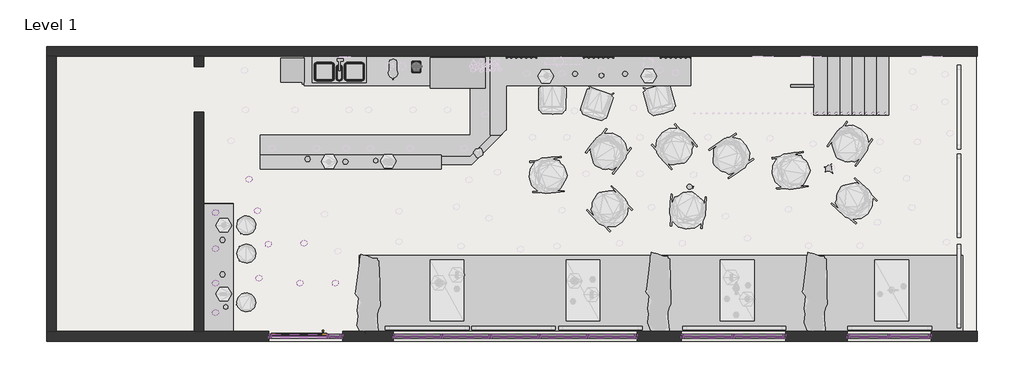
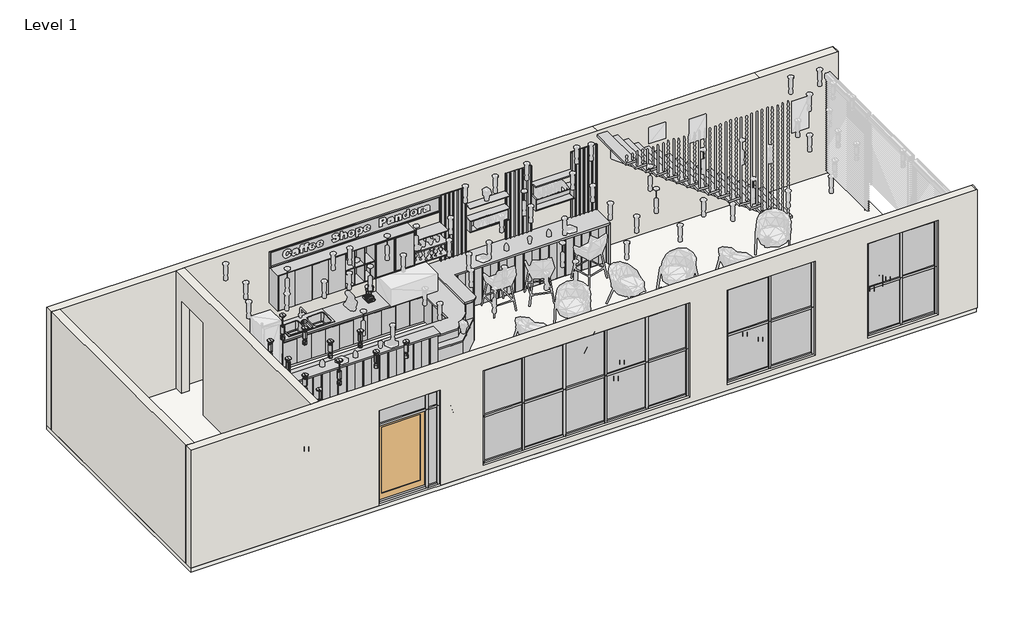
# One storey, part 1 of 12: 63 members, 21 plates, 11 light fixtures, 4 walls, 1 door, 1 flow terminal, 1 furniture element, 1 proxy, 2 other elements.
"""IFC4 building model written with IfcOpenShell, lengths in millimetres."""

from ifc_helpers import new_model, si_unit, frame, origin, origin_with_axes, place, context, project, spatial, polyline, outline, extrude, faceted_brep, transform, mapped, element, save
from components import specialty_equipment_4209ac2b, sgl_glass_1_sgl_glass_1_c4b590e0, sink_kitchen_triple_nz_1100_x_535mm_e0c28fc6, sink_kitchen_triple_nz_1100_x_535mm_59c7ceb9, furniture_1_furniture_1_1562d1c4, furniture_1_furniture_1_585118fb, light_fixture_a07fdb93, light_fixture_9dd68e13, member_248978aa, member_1a6eca39, member_66f684dc, member_066fb714, member_e0c796fc, member_adb27334, member_c876bcbd, member_9a189947, member_9f81c8f5, member_7ecdc260, member_ab99e772, member_f441077e, member_68cf1f2c, member_23567610, member_c260e5f1, member_744693ed, member_a46e3cf1, member_759d1258, system_panel_glazed_d6e8c8ab, system_panel_glazed_ee1e8c74, system_panel_glazed_7e8a296b, system_panel_glazed_d3e62436, system_panel_glazed_fb523d6f, system_panel_glazed_4594a90e, system_panel_glazed_4b920c80, stair_flight_50mm_tread_13mm_riser_529925ad

model = new_model("IFC4")

# Units and contexts
model_context = context("Model", 3, world=origin())
ifc_project = project(units=[si_unit("LENGTHUNIT", "METRE", prefix="MILLI")], contexts=[model_context])

# Site, building, storey
site = spatial("IfcSite", under=ifc_project)
building = spatial("IfcBuilding", under=site)
storey = spatial("IfcBuildingStorey", under=building, Name="Level 1", Elevation=0.0)

# Proxy
placement = place(None, origin())
specialty_equipment_shape = specialty_equipment_4209ac2b(model_context)
element("IfcBuildingElementProxy", 1, Name="Blender_167 : Blender_167", ObjectType="Blender_167 : Blender_167", at=placement, inside=storey, context=model_context, shape_type="MappedRepresentation", body=[
    mapped(specialty_equipment_shape, transform((3133.7993478, 2199.760891, 800.0), x_axis=(0.0, -1.0, 0.0), y_axis=(1.0, 0.0, 0.0), z_axis=(0.0, 0.0, 1.0))),
])

# Door
sgl_glass_1_sgl_glass_1_shape = sgl_glass_1_sgl_glass_1_c4b590e0(model_context)
element("IfcDoor", 2, ObjectType="Sgl Glass (1) : Sgl Glass (1)", at=placement, inside=storey, context=model_context, shape_type="MappedRepresentation", body=[
    mapped(sgl_glass_1_sgl_glass_1_shape, transform((843.1769045, -3400.239109, 50.0), x_axis=(-1.0, 0.0, 0.0), y_axis=(0.0, -1.0, 0.0), z_axis=(0.0, 0.0, 1.0))),
])

# Flow terminal
sink_kitchen_triple_nz_1100_x_535mm_shape = sink_kitchen_triple_nz_1100_x_535mm_e0c28fc6(model_context)
sink_kitchen_triple_nz_1100_x_535mm_2_shape = sink_kitchen_triple_nz_1100_x_535mm_59c7ceb9(model_context)
element("IfcFlowTerminal", 3, ObjectType="Sink Kitchen-Triple (NZ) : 1100 x 535mm", at=placement, inside=storey, context=model_context, shape_type="MappedRepresentation", body=[
    mapped(sink_kitchen_triple_nz_1100_x_535mm_shape, transform((1646.2101072, 2024.2154898, -100.0), x_axis=(1.0, 0.0, 0.0), y_axis=(0.0, 1.0, 0.0), z_axis=(0.0, 0.0, 1.0))),
    mapped(sink_kitchen_triple_nz_1100_x_535mm_2_shape, transform((1646.2101072, 2024.2154898, -100.0), x_axis=(1.0, 0.0, 0.0), y_axis=(0.0, 1.0, 0.0), z_axis=(0.0, 0.0, 1.0))),
])

# Furniture
furniture_1_furniture_1_shape = furniture_1_furniture_1_1562d1c4(model_context)
furniture_1_furniture_1_2_shape = furniture_1_furniture_1_585118fb(model_context)
element("IfcFurniture", 4, ObjectType="Furniture 1 : Furniture 1", at=placement, inside=storey, context=model_context, shape_type="MappedRepresentation", body=[
    mapped(furniture_1_furniture_1_shape, transform((0.0, 0.0, 0.0), x_axis=(1.0, 0.0, 0.0), y_axis=(0.0, 1.0, 0.0), z_axis=(0.0, 0.0, 1.0))),
    mapped(furniture_1_furniture_1_2_shape, transform((0.0, 0.0, 0.0), x_axis=(1.0, 0.0, 0.0), y_axis=(0.0, 1.0, 0.0), z_axis=(0.0, 0.0, 1.0))),
])

# Light fixtures
light_fixture_shape = light_fixture_a07fdb93(model_context)
element("IfcLightFixture", 5, ObjectType="Lighting_Pendants_Intra-Lighting_Zoe-Z3 : 600lm 11W 830 FO", at=placement, inside=storey, context=model_context, shape_type="MappedRepresentation", body=[
    mapped(light_fixture_shape, transform((-855.7537899, -2319.4309792, 3000.0), x_axis=(0.0, -1.0, 0.0), y_axis=(-1.0, 0.0, 0.0), z_axis=(0.0, 0.0, -1.0))),
])
element("IfcLightFixture", 6, ObjectType="Lighting_Pendants_Intra-Lighting_Zoe-Z3 : 600lm 11W 830 FO", at=placement, inside=storey, context=model_context, shape_type="MappedRepresentation", body=[
    mapped(light_fixture_shape, transform((-855.7537899, -1619.4309792, 3000.0), x_axis=(0.0, -1.0, 0.0), y_axis=(-1.0, 0.0, 0.0), z_axis=(0.0, 0.0, -1.0))),
])
element("IfcLightFixture", 7, ObjectType="Lighting_Pendants_Intra-Lighting_Zoe-Z3 : 600lm 11W 830 FO", at=placement, inside=storey, context=model_context, shape_type="MappedRepresentation", body=[
    mapped(light_fixture_shape, transform((-855.7537899, -879.4309792, 3000.0), x_axis=(0.0, -1.0, 0.0), y_axis=(-1.0, 0.0, 0.0), z_axis=(0.0, 0.0, -1.0))),
])
element("IfcLightFixture", 8, ObjectType="Lighting_Pendants_Intra-Lighting_Zoe-Z3 : 600lm 11W 830 FO", at=placement, inside=storey, context=model_context, shape_type="MappedRepresentation", body=[
    mapped(light_fixture_shape, transform((946.9163948, -1505.4771663, 3000.0), x_axis=(0.0, -1.0, 0.0), y_axis=(-1.0, 0.0, 0.0), z_axis=(0.0, 0.0, -1.0))),
])
element("IfcLightFixture", 9, ObjectType="Lighting_Pendants_Intra-Lighting_Zoe-Z3 : 600lm 11W 830 FO", at=placement, inside=storey, context=model_context, shape_type="MappedRepresentation", body=[
    mapped(light_fixture_shape, transform((-3.2999766, -840.1285001, 3000.0), x_axis=(0.0, -1.0, 0.0), y_axis=(-1.0, 0.0, 0.0), z_axis=(0.0, 0.0, -1.0))),
])
element("IfcLightFixture", 10, ObjectType="Lighting_Pendants_Intra-Lighting_Zoe-Z3 : 600lm 11W 830 FO", at=placement, inside=storey, context=model_context, shape_type="MappedRepresentation", body=[
    mapped(light_fixture_shape, transform((217.5435224, -1521.5845046, 3000.0), x_axis=(0.0, -1.0, 0.0), y_axis=(-1.0, 0.0, 0.0), z_axis=(0.0, 0.0, -1.0))),
])
element("IfcLightFixture", 11, ObjectType="Lighting_Pendants_Intra-Lighting_Zoe-Z3 : 600lm 11W 830 FO", at=placement, inside=storey, context=model_context, shape_type="MappedRepresentation", body=[
    mapped(light_fixture_shape, transform((859.4503213, -2314.2733853, 3000.0), x_axis=(0.0, -1.0, 0.0), y_axis=(-1.0, 0.0, 0.0), z_axis=(0.0, 0.0, -1.0))),
])
element("IfcLightFixture", 12, ObjectType="Lighting_Pendants_Intra-Lighting_Zoe-Z3 : 600lm 11W 830 FO", at=placement, inside=storey, context=model_context, shape_type="MappedRepresentation", body=[
    mapped(light_fixture_shape, transform((1579.4503213, -2314.2733853, 3000.0), x_axis=(0.0, -1.0, 0.0), y_axis=(-1.0, 0.0, 0.0), z_axis=(0.0, 0.0, -1.0))),
])
light_fixture_2_shape = light_fixture_9dd68e13(model_context)
element("IfcLightFixture", 13, ObjectType="Lighting_Pendants_Intra-Lighting_Zoe-Z3 : 600lm 11W 830 FO", at=placement, inside=storey, context=model_context, shape_type="MappedRepresentation", body=[
    mapped(light_fixture_2_shape, transform((-855.7537899, -2919.4309792, 3000.0), x_axis=(0.0, -1.0, 0.0), y_axis=(-1.0, 0.0, 0.0), z_axis=(0.0, 0.0, -1.0))),
])
element("IfcLightFixture", 14, ObjectType="Lighting_Pendants_Intra-Lighting_Zoe-Z3 : 600lm 11W 830 FO", at=placement, inside=storey, context=model_context, shape_type="MappedRepresentation", body=[
    mapped(light_fixture_2_shape, transform((-174.1205464, -202.6174548, 3000.0), x_axis=(0.0, -1.0, 0.0), y_axis=(-1.0, 0.0, 0.0), z_axis=(0.0, 0.0, -1.0))),
])
element("IfcLightFixture", 15, ObjectType="Lighting_Pendants_Intra-Lighting_Zoe-Z3 : 600lm 11W 830 FO", at=placement, inside=storey, context=model_context, shape_type="MappedRepresentation", body=[
    mapped(light_fixture_2_shape, transform((31.1938099, -2217.0510995, 3000.0), x_axis=(0.0, -1.0, 0.0), y_axis=(-1.0, 0.0, 0.0), z_axis=(0.0, 0.0, -1.0))),
])

# Members
member_shape = member_248978aa(model_context)
element("IfcMember", 16, ObjectType="Rectangular Mullion : 2.5\" x 5\" rectangular", at=placement, inside=storey, context=model_context, shape_type="MappedRepresentation", body=[
    mapped(member_shape, transform((13640.6417882, -3400.239109, 2549.3414428), x_axis=(0.0, 0.0, 1.0), y_axis=(0.0, -1.0, 0.0), z_axis=(1.0, 0.0, 0.0))),
])
element("IfcMember", 17, ObjectType="Rectangular Mullion : 2.5\" x 5\" rectangular", at=placement, inside=storey, context=model_context, shape_type="MappedRepresentation", body=[
    mapped(member_shape, transform((12815.6417882, -3400.239109, 2549.3414428), x_axis=(0.0, 0.0, 1.0), y_axis=(0.0, -1.0, 0.0), z_axis=(1.0, 0.0, 0.0))),
])
element("IfcMember", 18, ObjectType="Rectangular Mullion : 2.5\" x 5\" rectangular", at=placement, inside=storey, context=model_context, shape_type="MappedRepresentation", body=[
    mapped(member_shape, transform((12040.6417882, -3400.239109, 150.0), x_axis=(0.0, 0.0, -1.0), y_axis=(0.0, -1.0, 0.0), z_axis=(-1.0, 0.0, 0.0))),
])
element("IfcMember", 19, ObjectType="Rectangular Mullion : 2.5\" x 5\" rectangular", at=placement, inside=storey, context=model_context, shape_type="MappedRepresentation", body=[
    mapped(member_shape, transform((12865.6417882, -3400.239109, 150.0), x_axis=(0.0, 0.0, -1.0), y_axis=(0.0, -1.0, 0.0), z_axis=(-1.0, 0.0, 0.0))),
])
member_2_shape = member_1a6eca39(model_context)
element("IfcMember", 20, ObjectType="Rectangular Mullion : 2.5\" x 5\" rectangular", at=placement, inside=storey, context=model_context, shape_type="MappedRepresentation", body=[
    mapped(member_2_shape, transform((12815.6417882, -3400.239109, 1349.6707214), x_axis=(0.0, 0.0, 1.0), y_axis=(0.0, -1.0, 0.0), z_axis=(1.0, 0.0, 0.0))),
])
element("IfcMember", 21, ObjectType="Rectangular Mullion : 2.5\" x 5\" rectangular", at=placement, inside=storey, context=model_context, shape_type="MappedRepresentation", body=[
    mapped(member_2_shape, transform((13640.6417882, -3400.239109, 1349.6707214), x_axis=(0.0, 0.0, 1.0), y_axis=(0.0, -1.0, 0.0), z_axis=(1.0, 0.0, 0.0))),
])
member_3_shape = member_66f684dc(model_context)
element("IfcMember", 22, ObjectType="Rectangular Mullion : 2.5\" x 5\" rectangular", at=placement, inside=storey, context=model_context, shape_type="MappedRepresentation", body=[
    mapped(member_3_shape, transform((10683.7993478, -3400.239109, 2549.3414428), x_axis=(0.0, 0.0, 1.0), y_axis=(0.0, -1.0, 0.0), z_axis=(1.0, 0.0, 0.0))),
])
element("IfcMember", 23, ObjectType="Rectangular Mullion : 2.5\" x 5\" rectangular", at=placement, inside=storey, context=model_context, shape_type="MappedRepresentation", body=[
    mapped(member_3_shape, transform((9648.7993478, -3400.239109, 2549.3414428), x_axis=(0.0, 0.0, 1.0), y_axis=(0.0, -1.0, 0.0), z_axis=(1.0, 0.0, 0.0))),
])
element("IfcMember", 24, ObjectType="Rectangular Mullion : 2.5\" x 5\" rectangular", at=placement, inside=storey, context=model_context, shape_type="MappedRepresentation", body=[
    mapped(member_3_shape, transform((8663.7993478, -3400.239109, 150.0), x_axis=(0.0, 0.0, -1.0), y_axis=(0.0, -1.0, 0.0), z_axis=(-1.0, 0.0, 0.0))),
])
element("IfcMember", 25, ObjectType="Rectangular Mullion : 2.5\" x 5\" rectangular", at=placement, inside=storey, context=model_context, shape_type="MappedRepresentation", body=[
    mapped(member_3_shape, transform((9698.7993478, -3400.239109, 150.0), x_axis=(0.0, 0.0, -1.0), y_axis=(0.0, -1.0, 0.0), z_axis=(-1.0, 0.0, 0.0))),
])
member_4_shape = member_066fb714(model_context)
element("IfcMember", 26, ObjectType="Rectangular Mullion : 2.5\" x 5\" rectangular", at=placement, inside=storey, context=model_context, shape_type="MappedRepresentation", body=[
    mapped(member_4_shape, transform((9648.7993478, -3400.239109, 1349.6707214), x_axis=(0.0, 0.0, 1.0), y_axis=(0.0, -1.0, 0.0), z_axis=(1.0, 0.0, 0.0))),
])
element("IfcMember", 27, ObjectType="Rectangular Mullion : 2.5\" x 5\" rectangular", at=placement, inside=storey, context=model_context, shape_type="MappedRepresentation", body=[
    mapped(member_4_shape, transform((10683.7993478, -3400.239109, 1349.6707214), x_axis=(0.0, 0.0, 1.0), y_axis=(0.0, -1.0, 0.0), z_axis=(1.0, 0.0, 0.0))),
])
member_5_shape = member_e0c796fc(model_context)
element("IfcMember", 28, ObjectType="Rectangular Mullion : 2.5\" x 5\" rectangular", at=placement, inside=storey, context=model_context, shape_type="MappedRepresentation", body=[
    mapped(member_5_shape, transform((2803.7993478, -3400.239109, 2549.3414428), x_axis=(0.0, 0.0, 1.0), y_axis=(0.0, 1.0, 0.0), z_axis=(-1.0, 0.0, 0.0))),
])
element("IfcMember", 29, ObjectType="Rectangular Mullion : 2.5\" x 5\" rectangular", at=placement, inside=storey, context=model_context, shape_type="MappedRepresentation", body=[
    mapped(member_5_shape, transform((6746.7993476, -3400.239109, 2549.3414428), x_axis=(0.0, 0.0, 1.0), y_axis=(0.0, 1.0, 0.0), z_axis=(-1.0, 0.0, 0.0))),
])
member_6_shape = member_adb27334(model_context)
element("IfcMember", 30, ObjectType="Rectangular Mullion : 2.5\" x 5\" rectangular", at=placement, inside=storey, context=model_context, shape_type="MappedRepresentation", body=[
    mapped(member_6_shape, transform((5754.7993477, -3400.239109, 2549.3414428), x_axis=(0.0, 0.0, 1.0), y_axis=(0.0, 1.0, 0.0), z_axis=(-1.0, 0.0, 0.0))),
])
element("IfcMember", 31, ObjectType="Rectangular Mullion : 2.5\" x 5\" rectangular", at=placement, inside=storey, context=model_context, shape_type="MappedRepresentation", body=[
    mapped(member_6_shape, transform((4762.7993478, -3400.239109, 2549.3414428), x_axis=(0.0, 0.0, 1.0), y_axis=(0.0, 1.0, 0.0), z_axis=(-1.0, 0.0, 0.0))),
])
element("IfcMember", 32, ObjectType="Rectangular Mullion : 2.5\" x 5\" rectangular", at=placement, inside=storey, context=model_context, shape_type="MappedRepresentation", body=[
    mapped(member_6_shape, transform((3770.7993479, -3400.239109, 2549.3414428), x_axis=(0.0, 0.0, 1.0), y_axis=(0.0, 1.0, 0.0), z_axis=(-1.0, 0.0, 0.0))),
])
element("IfcMember", 33, ObjectType="Rectangular Mullion : 2.5\" x 5\" rectangular", at=placement, inside=storey, context=model_context, shape_type="MappedRepresentation", body=[
    mapped(member_5_shape, transform((7663.7993478, -3400.239109, 150.0), x_axis=(0.0, 0.0, -1.0), y_axis=(0.0, 1.0, 0.0), z_axis=(1.0, 0.0, 0.0))),
])
element("IfcMember", 34, ObjectType="Rectangular Mullion : 2.5\" x 5\" rectangular", at=placement, inside=storey, context=model_context, shape_type="MappedRepresentation", body=[
    mapped(member_5_shape, transform((3720.7993479, -3400.239109, 150.0), x_axis=(0.0, 0.0, -1.0), y_axis=(0.0, 1.0, 0.0), z_axis=(1.0, 0.0, 0.0))),
])
element("IfcMember", 35, ObjectType="Rectangular Mullion : 2.5\" x 5\" rectangular", at=placement, inside=storey, context=model_context, shape_type="MappedRepresentation", body=[
    mapped(member_6_shape, transform((6696.7993476, -3400.239109, 150.0), x_axis=(0.0, 0.0, -1.0), y_axis=(0.0, 1.0, 0.0), z_axis=(1.0, 0.0, 0.0))),
])
element("IfcMember", 36, ObjectType="Rectangular Mullion : 2.5\" x 5\" rectangular", at=placement, inside=storey, context=model_context, shape_type="MappedRepresentation", body=[
    mapped(member_6_shape, transform((5704.7993477, -3400.239109, 150.0), x_axis=(0.0, 0.0, -1.0), y_axis=(0.0, 1.0, 0.0), z_axis=(1.0, 0.0, 0.0))),
])
element("IfcMember", 37, ObjectType="Rectangular Mullion : 2.5\" x 5\" rectangular", at=placement, inside=storey, context=model_context, shape_type="MappedRepresentation", body=[
    mapped(member_6_shape, transform((4712.7993478, -3400.239109, 150.0), x_axis=(0.0, 0.0, -1.0), y_axis=(0.0, 1.0, 0.0), z_axis=(1.0, 0.0, 0.0))),
])
member_7_shape = member_c876bcbd(model_context)
element("IfcMember", 38, ObjectType="Rectangular Mullion : 2.5\" x 5\" rectangular", at=placement, inside=storey, context=model_context, shape_type="MappedRepresentation", body=[
    mapped(member_7_shape, transform((6746.7993476, -3400.239109, 1349.6707214), x_axis=(0.0, 0.0, 1.0), y_axis=(0.0, 1.0, 0.0), z_axis=(-1.0, 0.0, 0.0))),
])
element("IfcMember", 39, ObjectType="Rectangular Mullion : 2.5\" x 5\" rectangular", at=placement, inside=storey, context=model_context, shape_type="MappedRepresentation", body=[
    mapped(member_7_shape, transform((2803.7993478, -3400.239109, 1349.6707214), x_axis=(0.0, 0.0, 1.0), y_axis=(0.0, 1.0, 0.0), z_axis=(-1.0, 0.0, 0.0))),
])
member_8_shape = member_9a189947(model_context)
element("IfcMember", 40, ObjectType="Rectangular Mullion : 2.5\" x 5\" rectangular", at=placement, inside=storey, context=model_context, shape_type="MappedRepresentation", body=[
    mapped(member_8_shape, transform((5754.7993477, -3400.239109, 1349.6707214), x_axis=(0.0, 0.0, 1.0), y_axis=(0.0, 1.0, 0.0), z_axis=(-1.0, 0.0, 0.0))),
])
element("IfcMember", 41, ObjectType="Rectangular Mullion : 2.5\" x 5\" rectangular", at=placement, inside=storey, context=model_context, shape_type="MappedRepresentation", body=[
    mapped(member_8_shape, transform((4762.7993478, -3400.239109, 1349.6707214), x_axis=(0.0, 0.0, 1.0), y_axis=(0.0, 1.0, 0.0), z_axis=(-1.0, 0.0, 0.0))),
])
element("IfcMember", 42, ObjectType="Rectangular Mullion : 2.5\" x 5\" rectangular", at=placement, inside=storey, context=model_context, shape_type="MappedRepresentation", body=[
    mapped(member_8_shape, transform((3770.7993479, -3400.239109, 1349.6707214), x_axis=(0.0, 0.0, 1.0), y_axis=(0.0, 1.0, 0.0), z_axis=(-1.0, 0.0, 0.0))),
])
member_9_shape = member_9f81c8f5(model_context)
element("IfcMember", 43, ObjectType="Rectangular Mullion : 2.5\" x 5\" rectangular", at=placement, inside=storey, context=model_context, shape_type="MappedRepresentation", body=[
    mapped(member_9_shape, transform((280.6769044, -3400.239109, 0.0), x_axis=(0.0, 0.0, -1.0), y_axis=(0.0, -1.0, 0.0), z_axis=(-1.0, 0.0, 0.0))),
])
member_10_shape = member_7ecdc260(model_context)
element("IfcMember", 44, ObjectType="Rectangular Mullion : 2.5\" x 5\" rectangular", at=placement, inside=storey, context=model_context, shape_type="MappedRepresentation", body=[
    mapped(member_10_shape, transform((1455.6769047, -3400.239109, 0.0), x_axis=(0.0, 0.0, -1.0), y_axis=(0.0, -1.0, 0.0), z_axis=(-1.0, 0.0, 0.0))),
])
member_11_shape = member_ab99e772(model_context)
element("IfcMember", 45, ObjectType="Rectangular Mullion : 2.5\" x 5\" rectangular", at=placement, inside=storey, context=model_context, shape_type="MappedRepresentation", body=[
    mapped(member_11_shape, transform((1405.6769047, -3400.239109, 2000.0), x_axis=(0.0, 0.0, 1.0), y_axis=(0.0, -1.0, 0.0), z_axis=(1.0, 0.0, 0.0))),
])
member_12_shape = member_f441077e(model_context)
element("IfcMember", 46, ObjectType="Rectangular Mullion : 2.5\" x 5\" rectangular", at=placement, inside=storey, context=model_context, shape_type="MappedRepresentation", body=[
    mapped(member_12_shape, transform((1680.6769044, -3400.239109, 2000.0), x_axis=(0.0, 0.0, 1.0), y_axis=(0.0, -1.0, 0.0), z_axis=(1.0, 0.0, 0.0))),
])
member_13_shape = member_68cf1f2c(model_context)
element("IfcMember", 47, ObjectType="Rectangular Mullion : 2.5\" x 5\" rectangular", at=placement, inside=storey, context=model_context, shape_type="MappedRepresentation", body=[
    mapped(member_13_shape, transform((12840.6417882, -3400.239109, 150.0), x_axis=(1.0, 0.0, 0.0), y_axis=(0.0, -1.0, 0.0), z_axis=(0.0, 0.0, -1.0))),
])
element("IfcMember", 48, ObjectType="Rectangular Mullion : 2.5\" x 5\" rectangular", at=placement, inside=storey, context=model_context, shape_type="MappedRepresentation", body=[
    mapped(member_13_shape, transform((9673.7993478, -3400.239109, 150.0), x_axis=(1.0, 0.0, 0.0), y_axis=(0.0, -1.0, 0.0), z_axis=(0.0, 0.0, -1.0))),
])
element("IfcMember", 49, ObjectType="Rectangular Mullion : 2.5\" x 5\" rectangular", at=placement, inside=storey, context=model_context, shape_type="MappedRepresentation", body=[
    mapped(member_13_shape, transform((6721.7993476, -3400.239109, 150.0), x_axis=(-1.0, 0.0, 0.0), y_axis=(0.0, 1.0, 0.0), z_axis=(0.0, 0.0, -1.0))),
])
element("IfcMember", 50, ObjectType="Rectangular Mullion : 2.5\" x 5\" rectangular", at=placement, inside=storey, context=model_context, shape_type="MappedRepresentation", body=[
    mapped(member_13_shape, transform((5729.7993477, -3400.239109, 150.0), x_axis=(-1.0, 0.0, 0.0), y_axis=(0.0, 1.0, 0.0), z_axis=(0.0, 0.0, -1.0))),
])
element("IfcMember", 51, ObjectType="Rectangular Mullion : 2.5\" x 5\" rectangular", at=placement, inside=storey, context=model_context, shape_type="MappedRepresentation", body=[
    mapped(member_13_shape, transform((4737.7993478, -3400.239109, 150.0), x_axis=(-1.0, 0.0, 0.0), y_axis=(0.0, 1.0, 0.0), z_axis=(0.0, 0.0, -1.0))),
])
element("IfcMember", 52, ObjectType="Rectangular Mullion : 2.5\" x 5\" rectangular", at=placement, inside=storey, context=model_context, shape_type="MappedRepresentation", body=[
    mapped(member_13_shape, transform((3745.7993479, -3400.239109, 150.0), x_axis=(-1.0, 0.0, 0.0), y_axis=(0.0, 1.0, 0.0), z_axis=(0.0, 0.0, -1.0))),
])
element("IfcMember", 53, ObjectType="Rectangular Mullion : 2.5\" x 5\" rectangular", at=placement, inside=storey, context=model_context, shape_type="MappedRepresentation", body=[
    mapped(member_13_shape, transform((12840.6417882, -3400.239109, 1349.6707214), x_axis=(1.0, 0.0, 0.0), y_axis=(0.0, -1.0, 0.0), z_axis=(0.0, 0.0, -1.0))),
])
element("IfcMember", 54, ObjectType="Rectangular Mullion : 2.5\" x 5\" rectangular", at=placement, inside=storey, context=model_context, shape_type="MappedRepresentation", body=[
    mapped(member_13_shape, transform((9673.7993478, -3400.239109, 1349.6707214), x_axis=(1.0, 0.0, 0.0), y_axis=(0.0, -1.0, 0.0), z_axis=(0.0, 0.0, -1.0))),
])
element("IfcMember", 55, ObjectType="Rectangular Mullion : 2.5\" x 5\" rectangular", at=placement, inside=storey, context=model_context, shape_type="MappedRepresentation", body=[
    mapped(member_13_shape, transform((6721.7993476, -3400.239109, 1349.6707214), x_axis=(-1.0, 0.0, 0.0), y_axis=(0.0, 1.0, 0.0), z_axis=(0.0, 0.0, -1.0))),
])
element("IfcMember", 56, ObjectType="Rectangular Mullion : 2.5\" x 5\" rectangular", at=placement, inside=storey, context=model_context, shape_type="MappedRepresentation", body=[
    mapped(member_13_shape, transform((5729.7993477, -3400.239109, 1349.6707214), x_axis=(-1.0, 0.0, 0.0), y_axis=(0.0, 1.0, 0.0), z_axis=(0.0, 0.0, -1.0))),
])
element("IfcMember", 57, ObjectType="Rectangular Mullion : 2.5\" x 5\" rectangular", at=placement, inside=storey, context=model_context, shape_type="MappedRepresentation", body=[
    mapped(member_13_shape, transform((4737.7993478, -3400.239109, 1349.6707214), x_axis=(-1.0, 0.0, 0.0), y_axis=(0.0, 1.0, 0.0), z_axis=(0.0, 0.0, -1.0))),
])
element("IfcMember", 58, ObjectType="Rectangular Mullion : 2.5\" x 5\" rectangular", at=placement, inside=storey, context=model_context, shape_type="MappedRepresentation", body=[
    mapped(member_13_shape, transform((3745.7993479, -3400.239109, 1349.6707214), x_axis=(-1.0, 0.0, 0.0), y_axis=(0.0, 1.0, 0.0), z_axis=(0.0, 0.0, -1.0))),
])
member_14_shape = member_23567610(model_context)
element("IfcMember", 59, ObjectType="Rectangular Mullion : 2.5\" x 5\" rectangular", at=placement, inside=storey, context=model_context, shape_type="MappedRepresentation", body=[
    mapped(member_14_shape, transform((13690.6417882, -3400.239109, 150.0), x_axis=(1.0, 0.0, 0.0), y_axis=(0.0, -1.0, 0.0), z_axis=(0.0, 0.0, -1.0))),
])
element("IfcMember", 60, ObjectType="Rectangular Mullion : 2.5\" x 5\" rectangular", at=placement, inside=storey, context=model_context, shape_type="MappedRepresentation", body=[
    mapped(member_14_shape, transform((10733.7993478, -3400.239109, 150.0), x_axis=(1.0, 0.0, 0.0), y_axis=(0.0, -1.0, 0.0), z_axis=(0.0, 0.0, -1.0))),
])
element("IfcMember", 61, ObjectType="Rectangular Mullion : 2.5\" x 5\" rectangular", at=placement, inside=storey, context=model_context, shape_type="MappedRepresentation", body=[
    mapped(member_14_shape, transform((2753.7993478, -3400.239109, 150.0), x_axis=(-1.0, 0.0, 0.0), y_axis=(0.0, 1.0, 0.0), z_axis=(0.0, 0.0, -1.0))),
])
element("IfcMember", 62, ObjectType="Rectangular Mullion : 2.5\" x 5\" rectangular", at=placement, inside=storey, context=model_context, shape_type="MappedRepresentation", body=[
    mapped(member_14_shape, transform((13690.6417882, -3400.239109, 1349.6707214), x_axis=(1.0, 0.0, 0.0), y_axis=(0.0, -1.0, 0.0), z_axis=(0.0, 0.0, -1.0))),
])
element("IfcMember", 63, ObjectType="Rectangular Mullion : 2.5\" x 5\" rectangular", at=placement, inside=storey, context=model_context, shape_type="MappedRepresentation", body=[
    mapped(member_14_shape, transform((10733.7993478, -3400.239109, 1349.6707214), x_axis=(1.0, 0.0, 0.0), y_axis=(0.0, -1.0, 0.0), z_axis=(0.0, 0.0, -1.0))),
])
element("IfcMember", 64, ObjectType="Rectangular Mullion : 2.5\" x 5\" rectangular", at=placement, inside=storey, context=model_context, shape_type="MappedRepresentation", body=[
    mapped(member_14_shape, transform((2753.7993478, -3400.239109, 1349.6707214), x_axis=(-1.0, 0.0, 0.0), y_axis=(0.0, 1.0, 0.0), z_axis=(0.0, 0.0, -1.0))),
])
element("IfcMember", 65, ObjectType="Rectangular Mullion : 2.5\" x 5\" rectangular", at=placement, inside=storey, context=model_context, shape_type="MappedRepresentation", body=[
    mapped(member_14_shape, transform((11990.6417882, -3400.239109, 2549.3414428), x_axis=(-1.0, 0.0, 0.0), y_axis=(0.0, -1.0, 0.0), z_axis=(0.0, 0.0, 1.0))),
])
element("IfcMember", 66, ObjectType="Rectangular Mullion : 2.5\" x 5\" rectangular", at=placement, inside=storey, context=model_context, shape_type="MappedRepresentation", body=[
    mapped(member_14_shape, transform((8613.7993478, -3400.239109, 2549.3414428), x_axis=(-1.0, 0.0, 0.0), y_axis=(0.0, -1.0, 0.0), z_axis=(0.0, 0.0, 1.0))),
])
element("IfcMember", 67, ObjectType="Rectangular Mullion : 2.5\" x 5\" rectangular", at=placement, inside=storey, context=model_context, shape_type="MappedRepresentation", body=[
    mapped(member_14_shape, transform((7713.7993478, -3400.239109, 2549.3414428), x_axis=(1.0, 0.0, 0.0), y_axis=(0.0, 1.0, 0.0), z_axis=(0.0, 0.0, 1.0))),
])
element("IfcMember", 68, ObjectType="Rectangular Mullion : 2.5\" x 5\" rectangular", at=placement, inside=storey, context=model_context, shape_type="MappedRepresentation", body=[
    mapped(member_14_shape, transform((11990.6417882, -3400.239109, 1349.6707214), x_axis=(-1.0, 0.0, 0.0), y_axis=(0.0, -1.0, 0.0), z_axis=(0.0, 0.0, 1.0))),
])
element("IfcMember", 69, ObjectType="Rectangular Mullion : 2.5\" x 5\" rectangular", at=placement, inside=storey, context=model_context, shape_type="MappedRepresentation", body=[
    mapped(member_14_shape, transform((8613.7993478, -3400.239109, 1349.6707214), x_axis=(-1.0, 0.0, 0.0), y_axis=(0.0, -1.0, 0.0), z_axis=(0.0, 0.0, 1.0))),
])
element("IfcMember", 70, ObjectType="Rectangular Mullion : 2.5\" x 5\" rectangular", at=placement, inside=storey, context=model_context, shape_type="MappedRepresentation", body=[
    mapped(member_14_shape, transform((7713.7993478, -3400.239109, 1349.6707214), x_axis=(1.0, 0.0, 0.0), y_axis=(0.0, 1.0, 0.0), z_axis=(0.0, 0.0, 1.0))),
])
element("IfcMember", 71, ObjectType="Rectangular Mullion : 2.5\" x 5\" rectangular", at=placement, inside=storey, context=model_context, shape_type="MappedRepresentation", body=[
    mapped(member_10_shape, transform((1680.6769044, -3400.239109, 2424.4373471), x_axis=(0.0, 0.0, 1.0), y_axis=(0.0, -1.0, 0.0), z_axis=(1.0, 0.0, 0.0))),
])
element("IfcMember", 72, ObjectType="Rectangular Mullion : 2.5\" x 5\" rectangular", at=placement, inside=storey, context=model_context, shape_type="MappedRepresentation", body=[
    mapped(member_9_shape, transform((1405.6769047, -3400.239109, 2424.4373471), x_axis=(0.0, 0.0, 1.0), y_axis=(0.0, -1.0, 0.0), z_axis=(1.0, 0.0, 0.0))),
])
member_15_shape = member_c260e5f1(model_context)
element("IfcMember", 73, ObjectType="Rectangular Mullion : 2.5\" x 5\" rectangular", at=placement, inside=storey, context=model_context, shape_type="MappedRepresentation", body=[
    mapped(member_15_shape, transform((1430.6769047, -3400.239109, 0.0), x_axis=(1.0, 0.0, 0.0), y_axis=(0.0, -1.0, 0.0), z_axis=(0.0, 0.0, -1.0))),
])
member_16_shape = member_744693ed(model_context)
element("IfcMember", 74, ObjectType="Rectangular Mullion : 2.5\" x 5\" rectangular", at=placement, inside=storey, context=model_context, shape_type="MappedRepresentation", body=[
    mapped(member_16_shape, transform((1730.6769044, -3400.239109, 0.0), x_axis=(1.0, 0.0, 0.0), y_axis=(0.0, -1.0, 0.0), z_axis=(0.0, 0.0, -1.0))),
])
element("IfcMember", 75, ObjectType="Rectangular Mullion : 2.5\" x 5\" rectangular", at=placement, inside=storey, context=model_context, shape_type="MappedRepresentation", body=[
    mapped(member_16_shape, transform((230.6769044, -3400.239109, 2000.0), x_axis=(-1.0, 0.0, 0.0), y_axis=(0.0, -1.0, 0.0), z_axis=(0.0, 0.0, 1.0))),
])
member_17_shape = member_a46e3cf1(model_context)
element("IfcMember", 76, ObjectType="Rectangular Mullion : 2.5\" x 5\" rectangular", at=placement, inside=storey, context=model_context, shape_type="MappedRepresentation", body=[
    mapped(member_17_shape, transform((1430.6769047, -3400.239109, 2000.0), x_axis=(1.0, 0.0, 0.0), y_axis=(0.0, -1.0, 0.0), z_axis=(0.0, 0.0, -1.0))),
])
member_18_shape = member_759d1258(model_context)
element("IfcMember", 77, ObjectType="Rectangular Mullion : 2.5\" x 5\" rectangular", at=placement, inside=storey, context=model_context, shape_type="MappedRepresentation", body=[
    mapped(member_18_shape, transform((1730.6769044, -3400.239109, 2000.0), x_axis=(1.0, 0.0, 0.0), y_axis=(0.0, -1.0, 0.0), z_axis=(0.0, 0.0, -1.0))),
])
element("IfcMember", 78, ObjectType="Rectangular Mullion : 2.5\" x 5\" rectangular", at=placement, inside=storey, context=model_context, shape_type="MappedRepresentation", body=[
    mapped(member_18_shape, transform((230.6769044, -3400.239109, 2424.4373471), x_axis=(-1.0, 0.0, 0.0), y_axis=(0.0, -1.0, 0.0), z_axis=(0.0, 0.0, 1.0))),
])

# Plates
system_panel_glazed_shape = system_panel_glazed_d6e8c8ab(model_context)
element("IfcPlate", 79, ObjectType="System Panel : Glazed", at=placement, inside=storey, context=model_context, shape_type="MappedRepresentation", body=[
    mapped(system_panel_glazed_shape, transform((9156.2993478, -3400.239109, 200.0), x_axis=(1.0, 0.0, 0.0), y_axis=(0.0, 1.0, 0.0), z_axis=(0.0, 0.0, 1.0))),
])
element("IfcPlate", 80, ObjectType="System Panel : Glazed", at=placement, inside=storey, context=model_context, shape_type="MappedRepresentation", body=[
    mapped(system_panel_glazed_shape, transform((10191.2993478, -3400.239109, 200.0), x_axis=(1.0, 0.0, 0.0), y_axis=(0.0, 1.0, 0.0), z_axis=(0.0, 0.0, 1.0))),
])
element("IfcPlate", 81, ObjectType="System Panel : Glazed", at=placement, inside=storey, context=model_context, shape_type="MappedRepresentation", body=[
    mapped(system_panel_glazed_shape, transform((9156.2993478, -3400.239109, 1374.6707214), x_axis=(1.0, 0.0, 0.0), y_axis=(0.0, 1.0, 0.0), z_axis=(0.0, 0.0, 1.0))),
])
element("IfcPlate", 82, ObjectType="System Panel : Glazed", at=placement, inside=storey, context=model_context, shape_type="MappedRepresentation", body=[
    mapped(system_panel_glazed_shape, transform((10191.2993478, -3400.239109, 1374.6707214), x_axis=(1.0, 0.0, 0.0), y_axis=(0.0, 1.0, 0.0), z_axis=(0.0, 0.0, 1.0))),
])
system_panel_glazed_2_shape = system_panel_glazed_ee1e8c74(model_context)
element("IfcPlate", 83, ObjectType="System Panel : Glazed", at=placement, inside=storey, context=model_context, shape_type="MappedRepresentation", body=[
    mapped(system_panel_glazed_2_shape, transform((7205.2993477, -3400.239109, 200.0), x_axis=(-1.0, 0.0, 0.0), y_axis=(0.0, -1.0, 0.0), z_axis=(0.0, 0.0, 1.0))),
])
element("IfcPlate", 84, ObjectType="System Panel : Glazed", at=placement, inside=storey, context=model_context, shape_type="MappedRepresentation", body=[
    mapped(system_panel_glazed_2_shape, transform((3262.2993478, -3400.239109, 200.0), x_axis=(-1.0, 0.0, 0.0), y_axis=(0.0, -1.0, 0.0), z_axis=(0.0, 0.0, 1.0))),
])
element("IfcPlate", 85, ObjectType="System Panel : Glazed", at=placement, inside=storey, context=model_context, shape_type="MappedRepresentation", body=[
    mapped(system_panel_glazed_2_shape, transform((7205.2993477, -3400.239109, 1374.6707214), x_axis=(-1.0, 0.0, 0.0), y_axis=(0.0, -1.0, 0.0), z_axis=(0.0, 0.0, 1.0))),
])
element("IfcPlate", 86, ObjectType="System Panel : Glazed", at=placement, inside=storey, context=model_context, shape_type="MappedRepresentation", body=[
    mapped(system_panel_glazed_2_shape, transform((3262.2993478, -3400.239109, 1374.6707214), x_axis=(-1.0, 0.0, 0.0), y_axis=(0.0, -1.0, 0.0), z_axis=(0.0, 0.0, 1.0))),
])
system_panel_glazed_3_shape = system_panel_glazed_7e8a296b(model_context)
element("IfcPlate", 87, ObjectType="System Panel : Glazed", at=placement, inside=storey, context=model_context, shape_type="MappedRepresentation", body=[
    mapped(system_panel_glazed_3_shape, transform((6225.7993476, -3400.239109, 200.0), x_axis=(-1.0, 0.0, 0.0), y_axis=(0.0, -1.0, 0.0), z_axis=(0.0, 0.0, 1.0))),
])
element("IfcPlate", 88, ObjectType="System Panel : Glazed", at=placement, inside=storey, context=model_context, shape_type="MappedRepresentation", body=[
    mapped(system_panel_glazed_3_shape, transform((5233.7993478, -3400.239109, 200.0), x_axis=(-1.0, 0.0, 0.0), y_axis=(0.0, -1.0, 0.0), z_axis=(0.0, 0.0, 1.0))),
])
element("IfcPlate", 89, ObjectType="System Panel : Glazed", at=placement, inside=storey, context=model_context, shape_type="MappedRepresentation", body=[
    mapped(system_panel_glazed_3_shape, transform((4241.7993479, -3400.239109, 200.0), x_axis=(-1.0, 0.0, 0.0), y_axis=(0.0, -1.0, 0.0), z_axis=(0.0, 0.0, 1.0))),
])
element("IfcPlate", 90, ObjectType="System Panel : Glazed", at=placement, inside=storey, context=model_context, shape_type="MappedRepresentation", body=[
    mapped(system_panel_glazed_3_shape, transform((6225.7993476, -3400.239109, 1374.6707214), x_axis=(-1.0, 0.0, 0.0), y_axis=(0.0, -1.0, 0.0), z_axis=(0.0, 0.0, 1.0))),
])
element("IfcPlate", 91, ObjectType="System Panel : Glazed", at=placement, inside=storey, context=model_context, shape_type="MappedRepresentation", body=[
    mapped(system_panel_glazed_3_shape, transform((5233.7993478, -3400.239109, 1374.6707214), x_axis=(-1.0, 0.0, 0.0), y_axis=(0.0, -1.0, 0.0), z_axis=(0.0, 0.0, 1.0))),
])
element("IfcPlate", 92, ObjectType="System Panel : Glazed", at=placement, inside=storey, context=model_context, shape_type="MappedRepresentation", body=[
    mapped(system_panel_glazed_3_shape, transform((4241.7993479, -3400.239109, 1374.6707214), x_axis=(-1.0, 0.0, 0.0), y_axis=(0.0, -1.0, 0.0), z_axis=(0.0, 0.0, 1.0))),
])
system_panel_glazed_4_shape = system_panel_glazed_d3e62436(model_context)
element("IfcPlate", 93, ObjectType="System Panel : Glazed", at=placement, inside=storey, context=model_context, shape_type="MappedRepresentation", body=[
    mapped(system_panel_glazed_4_shape, transform((12428.1417882, -3400.239109, 200.0), x_axis=(1.0, 0.0, 0.0), y_axis=(0.0, 1.0, 0.0), z_axis=(0.0, 0.0, 1.0))),
])
element("IfcPlate", 94, ObjectType="System Panel : Glazed", at=placement, inside=storey, context=model_context, shape_type="MappedRepresentation", body=[
    mapped(system_panel_glazed_4_shape, transform((13253.1417882, -3400.239109, 200.0), x_axis=(1.0, 0.0, 0.0), y_axis=(0.0, 1.0, 0.0), z_axis=(0.0, 0.0, 1.0))),
])
element("IfcPlate", 95, ObjectType="System Panel : Glazed", at=placement, inside=storey, context=model_context, shape_type="MappedRepresentation", body=[
    mapped(system_panel_glazed_4_shape, transform((12428.1417882, -3400.239109, 1374.6707214), x_axis=(1.0, 0.0, 0.0), y_axis=(0.0, 1.0, 0.0), z_axis=(0.0, 0.0, 1.0))),
])
element("IfcPlate", 96, ObjectType="System Panel : Glazed", at=placement, inside=storey, context=model_context, shape_type="MappedRepresentation", body=[
    mapped(system_panel_glazed_4_shape, transform((13253.1417882, -3400.239109, 1374.6707214), x_axis=(1.0, 0.0, 0.0), y_axis=(0.0, 1.0, 0.0), z_axis=(0.0, 0.0, 1.0))),
])
system_panel_glazed_5_shape = system_panel_glazed_fb523d6f(model_context)
element("IfcPlate", 97, ObjectType="System Panel : Glazed", at=placement, inside=storey, context=model_context, shape_type="MappedRepresentation", body=[
    mapped(system_panel_glazed_5_shape, transform((1568.1769045, -3400.239109, 50.0), x_axis=(1.0, 0.0, 0.0), y_axis=(0.0, 1.0, 0.0), z_axis=(0.0, 0.0, 1.0))),
])
system_panel_glazed_6_shape = system_panel_glazed_4594a90e(model_context)
element("IfcPlate", 98, ObjectType="System Panel : Glazed", at=placement, inside=storey, context=model_context, shape_type="MappedRepresentation", body=[
    mapped(system_panel_glazed_6_shape, transform((843.1769045, -3400.239109, 2025.0), x_axis=(1.0, 0.0, 0.0), y_axis=(0.0, 1.0, 0.0), z_axis=(0.0, 0.0, 1.0))),
])
system_panel_glazed_7_shape = system_panel_glazed_4b920c80(model_context)
element("IfcPlate", 99, ObjectType="System Panel : Glazed", at=placement, inside=storey, context=model_context, shape_type="MappedRepresentation", body=[
    mapped(system_panel_glazed_7_shape, transform((1568.1769045, -3400.239109, 2025.0), x_axis=(1.0, 0.0, 0.0), y_axis=(0.0, 1.0, 0.0), z_axis=(0.0, 0.0, 1.0))),
])

# Slab
element("IfcSlab", 100, ObjectType="Generic 100mm", at=placement, inside=storey, context=model_context, shape_type="SweptSolid", body=[
    extrude(outline(polyline([(14610.6769044, 2499.760891), (14610.6769044, -3500.239109), (-4289.3230956, -3500.239109), (-4289.3230956, 2499.760891), (14610.6769044, 2499.760891)])), frame((0.0, 0.0, -100.0), z_axis=(0.0, 0.0, 1.0), x_axis=(1.0, 0.0, 0.0)), (0.0, 0.0, 1.0), 100.0),
])

# Stair flight
stair_flight_50mm_tread_13mm_riser_shape = stair_flight_50mm_tread_13mm_riser_529925ad(model_context)
element("IfcStairFlight", 101, ObjectType="50mm Tread 13mm Riser", at=placement, inside=storey, context=model_context, shape_type="MappedRepresentation", body=[
    mapped(stair_flight_50mm_tread_13mm_riser_shape, transform((0.0, 0.0, 0.0), x_axis=(1.0, 0.0, 0.0), y_axis=(0.0, 1.0, 0.0), z_axis=(0.0, 0.0, 1.0))),
])

# Walls
element("IfcWall", 102, ObjectType="Generic - 200mm", at=placement, inside=storey, context=model_context, shape_type="Brep", body=[
    faceted_brep([(-4289.3230956, 2299.760891, 0.0), (-4089.3230956, 2299.760891, 0.0), (-1289.3230956, 2299.760891, 0.0), (-1089.3230956, 2299.760891, 0.0), (14633.7993478, 2299.760891, 0.0), (14633.7993478, 2299.760891, 3000.0), (14610.6769044, 2299.760891, 3000.0), (12730.6769044, 2299.760891, 3000.0), (8850.6769044, 2299.760891, 3000.0), (5130.6769044, 2299.760891, 3000.0), (-1089.3230956, 2299.760891, 3000.0), (-1289.3230956, 2299.760891, 3000.0), (-4089.3230956, 2299.760891, 3000.0), (-4289.3230956, 2299.760891, 3000.0), (-4289.3230956, 2499.760891, 0.0), (-4289.3230956, 2499.760891, 3000.0), (5130.6769044, 2499.760891, 3000.0), (8850.6769044, 2499.760891, 3000.0), (12730.6769044, 2499.760891, 3000.0), (14610.6769044, 2499.760891, 3000.0), (14633.7993478, 2499.760891, 3000.0), (14633.7993478, 2499.760891, 0.0)], [[[0, 1, 2, 3, 4, 5, 6, 7, 8, 9, 10, 11, 12, 13]], [[14, 15, 16, 17, 18, 19, 20, 21]], [[4, 3, 2, 1, 0, 14, 21]], [[5, 4, 21, 20]], [[0, 13, 15, 14]], [[8, 7, 18, 17]], [[7, 6, 19, 18]], [[13, 12, 11, 10, 9, 8, 17, 16, 15]], [[6, 5, 20, 19]]]),
])
element("IfcWall", 103, ObjectType="Generic - 200mm", at=placement, inside=storey, context=model_context, shape_type="SweptSolid", body=[
    extrude(outline(polyline([(2299.760891, 3000.0), (2299.760891, 0.0), (2091.2583857, 0.0), (2091.2583857, 2364.0012287), (1165.2583857, 2364.0012287), (1165.2583857, 0.0), (-3300.239109, 0.0), (-3300.239109, 3000.0), (2299.760891, 3000.0)])), frame((-1289.3230956, 0.0, 0.0), z_axis=(1.0, 0.0, 0.0), x_axis=(0.0, 1.0, 0.0)), (0.0, 0.0, 1.0), 200.0),
])
element("IfcWall", 104, ObjectType="Generic - 200mm", at=placement, inside=storey, context=model_context, shape_type="Brep", body=[
    faceted_brep([(14633.7993478, -3300.239109, 3000.0), (14633.7993478, -3300.239109, 0.0), (1730.6769044, -3300.239109, 0.0), (1730.6769044, -3300.239109, 2424.4373471), (230.6769044, -3300.239109, 2424.4373471), (230.6769044, -3300.239109, 0.0), (-1089.3230956, -3300.239109, 0.0), (-1289.3230956, -3300.239109, 0.0), (-4089.3230956, -3300.239109, 0.0), (-4289.3230956, -3300.239109, 0.0), (-4289.3230956, -3300.239109, 3000.0), (-4089.3230956, -3300.239109, 3000.0), (-1289.3230956, -3300.239109, 3000.0), (-1089.3230956, -3300.239109, 3000.0), (14610.6769044, -3300.239109, 3000.0), (11990.6417882, -3300.239109, 2549.3414428), (11990.6417882, -3300.239109, 150.0), (13690.6417882, -3300.239109, 150.0), (13690.6417882, -3300.239109, 2549.3414428), (8613.7993478, -3300.239109, 2549.3414428), (8613.7993478, -3300.239109, 150.0), (10733.7993478, -3300.239109, 150.0), (10733.7993478, -3300.239109, 2549.3414428), (7713.7993478, -3300.239109, 150.0), (7713.7993478, -3300.239109, 2549.3414428), (2753.7993478, -3300.239109, 2549.3414428), (2753.7993478, -3300.239109, 150.0), (14633.7993478, -3500.239109, 0.0), (14633.7993478, -3500.239109, 3000.0), (14610.6769044, -3500.239109, 3000.0), (-4289.3230956, -3500.239109, 3000.0), (-4289.3230956, -3500.239109, 0.0), (230.6769044, -3500.239109, 0.0), (230.6769044, -3500.239109, 2424.4373471), (1730.6769044, -3500.239109, 2424.4373471), (1730.6769044, -3500.239109, 0.0), (11990.6417882, -3500.239109, 150.0), (11990.6417882, -3500.239109, 2549.3414428), (13690.6417882, -3500.239109, 2549.3414428), (13690.6417882, -3500.239109, 150.0), (8613.7993478, -3500.239109, 150.0), (8613.7993478, -3500.239109, 2549.3414428), (10733.7993478, -3500.239109, 2549.3414428), (10733.7993478, -3500.239109, 150.0), (7713.7993478, -3500.239109, 2549.3414428), (7713.7993478, -3500.239109, 150.0), (2753.7993478, -3500.239109, 150.0), (2753.7993478, -3500.239109, 2549.3414428)], [[[0, 1, 2, 3, 4, 5, 6, 7, 8, 9, 10, 11, 12, 13, 14], [15, 16, 17, 18], [19, 20, 21, 22], [23, 24, 25, 26]], [[27, 28, 29, 30, 31, 32, 33, 34, 35], [36, 37, 38, 39], [40, 41, 42, 43], [44, 45, 46, 47]], [[1, 27, 35, 2]], [[31, 9, 8, 7, 6, 5, 32]], [[1, 0, 28, 27]], [[10, 9, 31, 30]], [[28, 0, 14, 29]], [[10, 30, 29, 14, 13, 12, 11]], [[36, 16, 15, 37]], [[38, 18, 17, 39]], [[16, 36, 39, 17]], [[40, 20, 19, 41]], [[21, 43, 42, 22]], [[20, 40, 43, 21]], [[23, 45, 44, 24]], [[46, 26, 25, 47]], [[45, 23, 26, 46]], [[18, 38, 37, 15]], [[41, 19, 22, 42]], [[24, 44, 47, 25]], [[5, 4, 33, 32]], [[3, 2, 35, 34]], [[3, 34, 33, 4]]]),
])
element("IfcWall", 105, ObjectType="Generic - 200mm", at=placement, inside=storey, context=model_context, shape_type="SweptSolid", body=[
    extrude(outline(polyline([(-4289.3230956, -3300.239109), (-4289.3230956, 2299.760891), (-4089.3230956, 2299.760891), (-4089.3230956, -3300.239109), (-4289.3230956, -3300.239109)])), origin_with_axes(), (0.0, 0.0, 1.0), 3000.0),
])

save(model, "model.ifc")
